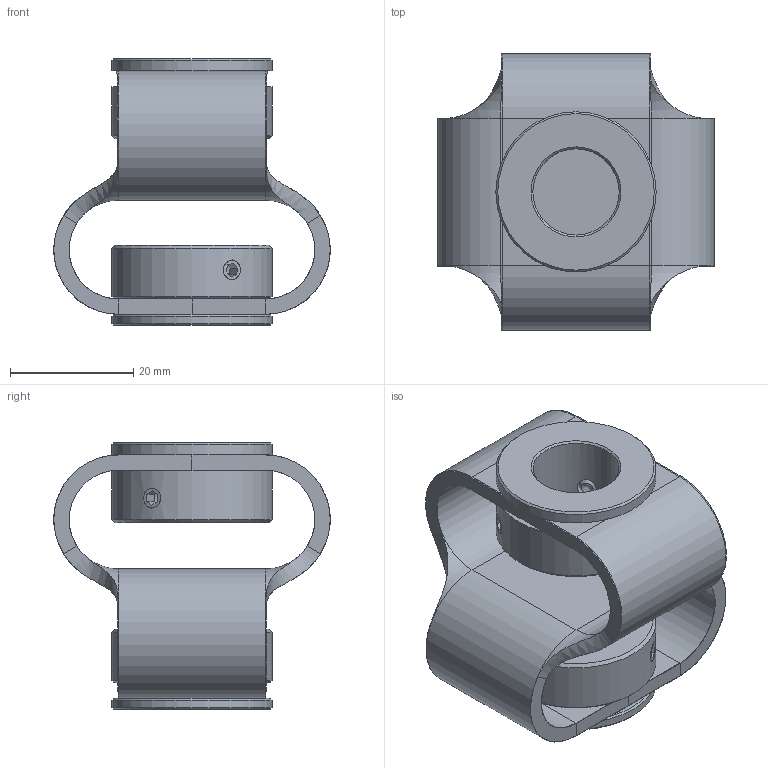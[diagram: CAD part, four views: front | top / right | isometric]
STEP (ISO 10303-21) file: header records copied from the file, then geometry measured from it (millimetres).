
FILE_DESCRIPTION(/* description */ ('Stern '),/* implementation_level */ '2;1');
FILE_NAME(/* name */ 'Z:\ABP-Antriebstechnik\Entwicklung-3D\Paguflex\DKPSF\DKPSF4848 10 14.stp',/* time_stamp */ '2024-03-11T14:46:34+01:00',/* author */ ('christian.fehrenbach'),/* organization */ (''),/* preprocessor_version */ 'ST-DEVELOPER v16.1',/* originating_system */ 'Autodesk Inventor 2016',/* authorisation */ '');
FILE_SCHEMA (('AUTOMOTIVE_DESIGN { 1 0 10303 214 3 1 1 }'));
Length unit declared in the file: millimetre
Products named in the file (5): Stern 4848 gebogen; Schraubnabe 2513 10; Schraubnabe 2513 14; M4-6; DKPSF4848 10 14
Assembly tree (7 placements, depth 2):
  DKPSF4848 10 14
    Stern 4848 gebogen
    Schraubnabe 2513 10
    Schraubnabe 2513 14
    M4-6  x4
Bounding box: 44.87 x 44.87 x 43.3 mm (x, y, z)
Volume: 19493.5 mm3; surface area: 15670.4 mm2
Topology: 7 solids, 11 shells, 172 faces, 364 edges, 204 vertices
Faces by surface type: plane 84, cylinder 45, cone 30, torus 9, bspline 4
Full cylindrical faces by diameter (mm): 3.242 x4, 4 x4, 10 x1, 14 x1, 16.5 x1, 18 x2, 26 x4
Entity records: 3594 total; most frequent: CARTESIAN_POINT 994, DIRECTION 554, ORIENTED_EDGE 460, AXIS2_PLACEMENT_3D 230, EDGE_CURVE 218, EDGE_LOOP 164, VERTEX_POINT 138, FACE_OUTER_BOUND 118
